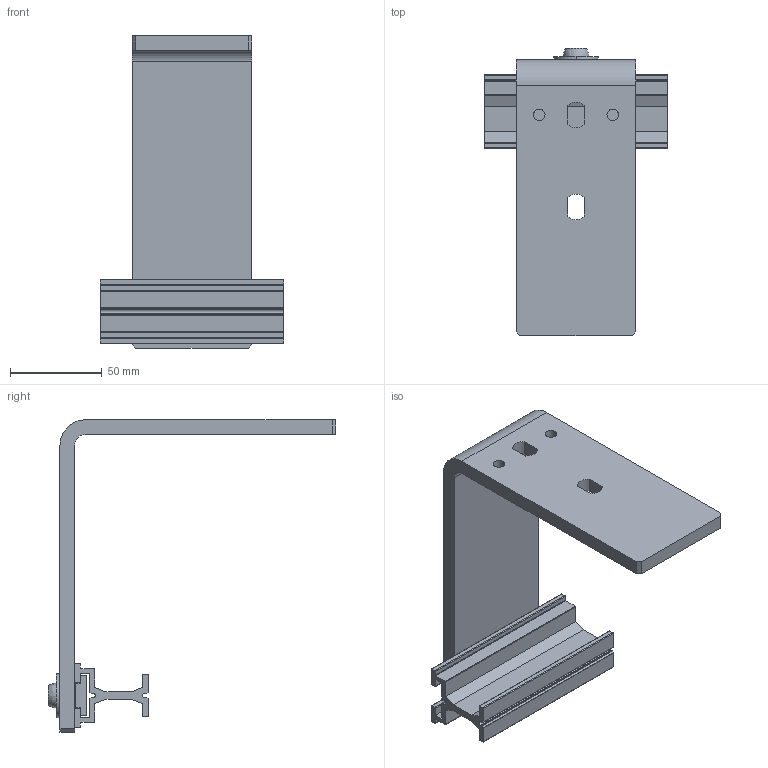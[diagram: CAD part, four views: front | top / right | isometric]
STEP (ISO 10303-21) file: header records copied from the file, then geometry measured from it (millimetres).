
FILE_DESCRIPTION (( 'STEP AP214' ), '1' );
FILE_NAME ('0000688347_wandwinkel_nut_asm.STEP', '2021-03-17T14:27:51', ( '' ), ( '' ), 'SwSTEP 2.0', 'SolidWorks 2019', '' );
FILE_SCHEMA (( 'AUTOMOTIVE_DESIGN' ));
Length unit declared in the file: millimetre
Products named in the file (6): 31150071_EINSCHUBNUTENSTEIN_1; Trumpt 95; 0000688347_wandwinkel_nut_asm; D9021_084_ST; 0000648858_WANDWINKEL; I7380_08_16_ST_1
Assembly tree (5 placements, depth 2):
  0000688347_wandwinkel_nut_asm
    0000648858_WANDWINKEL
    31150071_EINSCHUBNUTENSTEIN_1
    D9021_084_ST
    I7380_08_16_ST_1
    Trumpt 95
Bounding box: 100 x 156.4 x 170 mm (x, y, z)
Volume: 36953.4 mm3; surface area: 73630.1 mm2
Topology: 2 solids, 9 shells, 152 faces, 415 edges, 276 vertices
Faces by surface type: plane 78, cylinder 67, cone 6, bspline 1
Entity records: 5326 total; most frequent: CARTESIAN_POINT 1087, DIRECTION 869, ORIENTED_EDGE 810, EDGE_CURVE 413, AXIS2_PLACEMENT_3D 302, VERTEX_POINT 276, LINE 265, VECTOR 265
